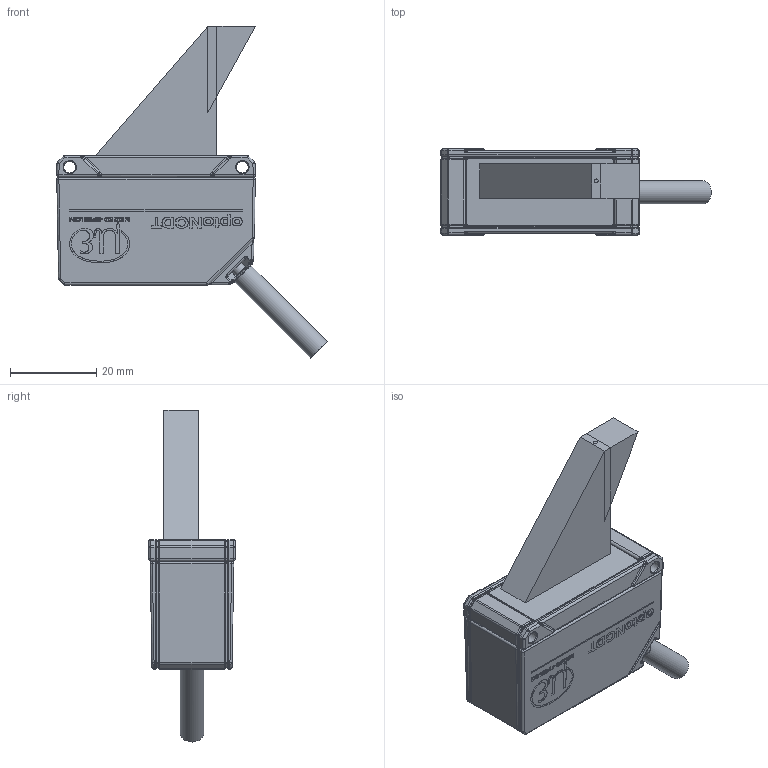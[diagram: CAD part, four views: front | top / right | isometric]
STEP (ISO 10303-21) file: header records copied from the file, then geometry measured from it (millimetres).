
FILE_DESCRIPTION (( 'STEP AP214' ), '1' );
FILE_NAME ('ILD1320-1420_MB10.STEP', '2017-02-09T09:28:04', ( '' ), ( '' ), 'SwSTEP 2.0', 'SolidWorks 2016', '' );
FILE_SCHEMA (( 'AUTOMOTIVE_DESIGN' ));
Length unit declared in the file: millimetre
Products named in the file (5): ILD1320-1420_000; optical_free_space_MB10_000; ILD1320-1420_MB10; reflexion_free_space_MB10_000; laserbeam_tolerance_000
Assembly tree (4 placements, depth 2):
  ILD1320-1420_MB10
    ILD1320-1420_000
    laserbeam_tolerance_000
    optical_free_space_MB10_000
    reflexion_free_space_MB10_000
Bounding box: 62.64 x 20 x 76.9 mm (x, y, z)
Volume: 29713.9 mm3; surface area: 10951.9 mm2
Topology: 6 solids, 8 shells, 1767 faces, 4426 edges, 2696 vertices
Faces by surface type: bspline 840, plane 567, cylinder 348, cone 12
Full cylindrical faces by diameter (mm): 2.7 x2, 3 x2, 3.3 x1, 5.4 x1
Entity records: 66604 total; most frequent: CARTESIAN_POINT 31102, ORIENTED_EDGE 8684, DIRECTION 4875, EDGE_CURVE 4342, VERTEX_POINT 2682, VECTOR 2001, LINE 2001, EDGE_LOOP 1862
